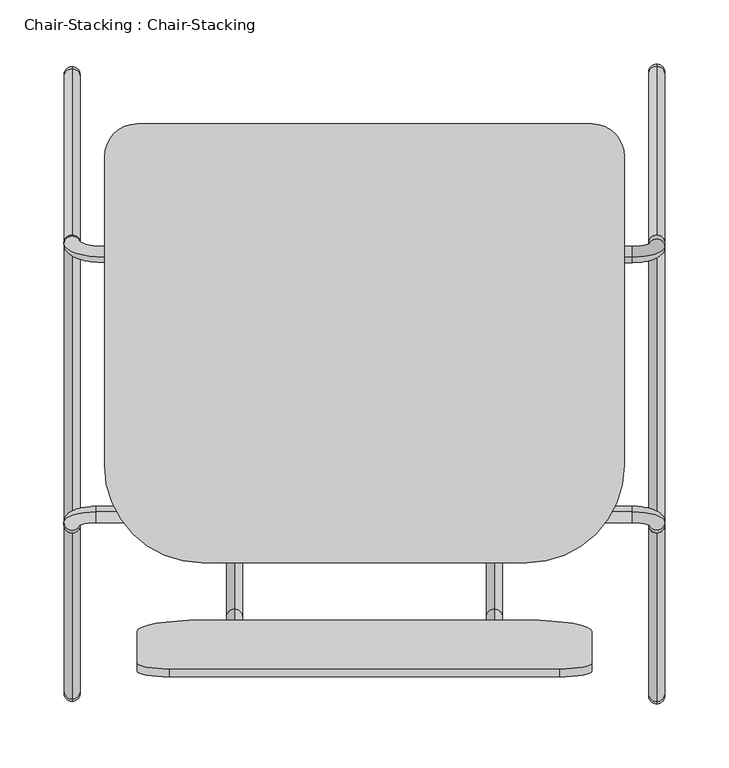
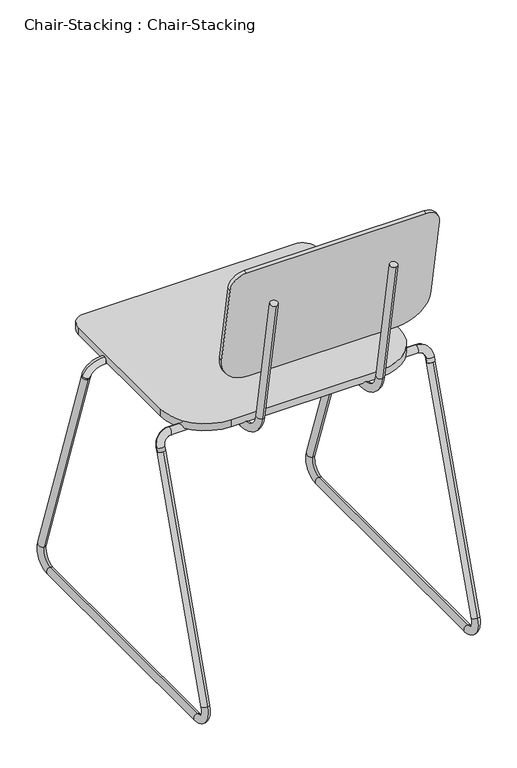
"""IFC4 building model written with IfcOpenShell, lengths in millimetres: furniture geometry, Chair-Stacking : Chair-Stacking."""

from ifc_helpers import new_model, si_unit, point, frame, frame_2d, origin, place, context, project, spatial, polyline, circle_curve, ellipse_curve, trimmed, segment, composite_curve, outline, extrude, source, transform, mapped, element, save
from ifc_brep_helpers import plane_surface, cylinder_surface, revolved_surface, advanced_brep


def chair_stacking_chair_stacking_4df0970f(model_context):
    return source(origin(), model_context, "Body", "SolidModel", [
        advanced_brep(
        [(-280.6491803, 213.2656675, 431.8), (-280.6491803, 213.2656675, 444.5), (-280.6491803, -23.0277124, 431.8), (-280.6491803, -23.0277124, 444.5), (-280.6491803, -66.802417, 481.2313385), (-280.6491803, -79.3094755, 479.0260066), (-280.6491803, -119.2282049, 705.4163709), (-280.6491803, -106.7211464, 707.6217027)],
        [
            (0, 1, circle_curve(frame((-280.6491803, 213.2656675, 438.15), z_axis=(0.0, 1.0, 0.0), x_axis=(0.0, 0.0, 1.0)), 6.35)),
            (1, 0, circle_curve(frame((-280.6491803, 213.2656675, 438.15), z_axis=(0.0, 1.0, 0.0), x_axis=(0.0, 0.0, 1.0)), 6.35)),
            (0, 2),
            (2, 3, circle_curve(frame((-280.6491803, -23.0277124, 438.15), z_axis=(0.0, 1.0, 0.0), x_axis=(0.0, 0.0, 1.0)), 6.35)),
            (3, 1),
            (3, 2, circle_curve(frame((-280.6491803, -23.0277124, 438.15), z_axis=(0.0, 1.0, 0.0), x_axis=(0.0, 0.0, 1.0)), 6.35)),
            (4, 3, circle_curve(frame((-280.6491803, -23.0277124, 488.95), z_axis=(1.0, 0.0, 0.0), x_axis=(0.0, 0.0, -1.0)), 44.45)),
            (2, 5, circle_curve(frame((-280.6491803, -23.0277124, 488.95), z_axis=(-1.0, 0.0, 0.0), x_axis=(0.0, 0.0, -1.0)), 57.15)),
            (5, 4, circle_curve(frame((-280.6491803, -73.0559463, 480.1286726), z_axis=(0.0, 0.17364817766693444, -0.9848077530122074), x_axis=(0.0, 0.9848077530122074, 0.17364817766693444)), 6.35)),
            (4, 5, circle_curve(frame((-280.6491803, -73.0559463, 480.1286726), z_axis=(0.0, 0.17364817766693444, -0.9848077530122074), x_axis=(0.0, 0.9848077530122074, 0.17364817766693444)), 6.35)),
            (6, 7, circle_curve(frame((-280.6491803, -112.9746757, 706.5190368), z_axis=(0.0, -0.1736481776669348, 0.9848077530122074), x_axis=(0.0, 0.9848077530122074, 0.1736481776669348)), 6.35)),
            (7, 6, circle_curve(frame((-280.6491803, -112.9746757, 706.5190368), z_axis=(0.0, -0.1736481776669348, 0.9848077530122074), x_axis=(0.0, 0.9848077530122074, 0.1736481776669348)), 6.35)),
            (5, 6),
            (7, 4),
        ],
        [
            plane_surface(frame((-286.9991803, 213.2656675, 438.15), z_axis=(0.0, 1.0, 0.0), x_axis=(0.0, 0.0, -1.0))),
            cylinder_surface(frame((-280.6491803, 213.2656675, 438.15), z_axis=(0.0, 1.0, 0.0), x_axis=(0.0, 0.0, 1.0)), 6.35),
            revolved_surface(trimmed(ellipse_curve(frame((-280.6491803, -23.0277124, 438.15), z_axis=(0.0, 1.0, 0.0), x_axis=(0.0, 0.0, 1.0)), 6.35, 6.35), [point((-280.6491803, -23.0277124, 431.8))], [point((-280.6491803, -23.0277124, 444.5))], True, "CARTESIAN"), (-280.6491803, -23.0277124, 488.95), (-1.0, 0.0, 0.0)),
            revolved_surface(trimmed(ellipse_curve(frame((-280.6491803, -23.0277124, 438.15), z_axis=(0.0, 1.0, 0.0), x_axis=(0.0, 0.0, 1.0)), 6.35, 6.35), [point((-280.6491803, -23.0277124, 444.5))], [point((-280.6491803, -23.0277124, 431.8))], True, "CARTESIAN"), (-280.6491803, -23.0277124, 488.95), (-1.0, 0.0, 0.0)),
            plane_surface(frame((-280.6491803, -119.2282049, 705.4163709), z_axis=(0.0, -0.17364817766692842, 0.9848077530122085), x_axis=(1.0, 0.0, 0.0))),
            cylinder_surface(frame((-280.6491803, -73.0559463, 480.1286726), z_axis=(0.0, 0.1736481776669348, -0.9848077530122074), x_axis=(0.0, 0.9848077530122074, 0.1736481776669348)), 6.35),
        ],
        [
            (0, [[1, 2]]),
            (1, [[-1, 3, 4, 5]]),
            (1, [[-2, -5, 6, -3]]),
            (2, [[7, -4, 8, 9]]),
            (3, [[-8, -6, -7, 10]]),
            (4, [[11, 12]]),
            (5, [[-9, 13, -12, 14]]),
            (5, [[-10, -14, -11, -13]]),
        ],
    ),
        advanced_brep(
        [(-77.4491803, 213.2656675, 431.8), (-77.4491803, 213.2656675, 444.5), (-77.4491803, -23.0277124, 431.8), (-77.4491803, -23.0277124, 444.5), (-77.4491803, -66.802417, 481.2313385), (-77.4491803, -79.3094755, 479.0260066), (-77.4491803, -118.9339087, 703.7473341), (-77.4491803, -106.4268502, 705.9526659)],
        [
            (0, 1, circle_curve(frame((-77.4491803, 213.2656675, 438.15), z_axis=(0.0, 1.0, 0.0), x_axis=(0.0, 0.0, 1.0)), 6.35)),
            (1, 0, circle_curve(frame((-77.4491803, 213.2656675, 438.15), z_axis=(0.0, 1.0, 0.0), x_axis=(0.0, 0.0, 1.0)), 6.35)),
            (0, 2),
            (2, 3, circle_curve(frame((-77.4491803, -23.0277124, 438.15), z_axis=(0.0, 1.0, 0.0), x_axis=(0.0, 0.0, 1.0)), 6.35)),
            (3, 1),
            (3, 2, circle_curve(frame((-77.4491803, -23.0277124, 438.15), z_axis=(0.0, 1.0, 0.0), x_axis=(0.0, 0.0, 1.0)), 6.35)),
            (4, 3, circle_curve(frame((-77.4491803, -23.0277124, 488.95), z_axis=(1.0, 0.0, 0.0), x_axis=(0.0, 0.0, -1.0)), 44.45)),
            (2, 5, circle_curve(frame((-77.4491803, -23.0277124, 488.95), z_axis=(-1.0, 0.0, 0.0), x_axis=(0.0, 0.0, -1.0)), 57.15)),
            (5, 4, circle_curve(frame((-77.4491803, -73.0559463, 480.1286726), z_axis=(0.0, 0.1736481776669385, -0.9848077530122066), x_axis=(0.0, 0.9848077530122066, 0.1736481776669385)), 6.35)),
            (4, 5, circle_curve(frame((-77.4491803, -73.0559463, 480.1286726), z_axis=(0.0, 0.1736481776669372, -0.9848077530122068), x_axis=(0.0, 0.9848077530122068, 0.1736481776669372)), 6.35)),
            (6, 7, circle_curve(frame((-77.4491803, -112.6803794, 704.85), z_axis=(0.0, -0.17364817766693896, 0.9848077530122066), x_axis=(0.0, 0.9848077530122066, 0.17364817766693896)), 6.35)),
            (7, 6, circle_curve(frame((-77.4491803, -112.6803794, 704.85), z_axis=(0.0, -0.17364817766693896, 0.9848077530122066), x_axis=(0.0, 0.9848077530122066, 0.17364817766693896)), 6.35)),
            (5, 6),
            (7, 4),
        ],
        [
            plane_surface(frame((-83.7991803, 213.2656675, 438.15), z_axis=(0.0, 1.0, 0.0), x_axis=(0.0, 0.0, -1.0))),
            cylinder_surface(frame((-77.4491803, 213.2656675, 438.15), z_axis=(0.0, 1.0, 0.0), x_axis=(0.0, 0.0, 1.0)), 6.35),
            revolved_surface(trimmed(ellipse_curve(frame((-77.4491803, -23.0277124, 438.15), z_axis=(0.0, 1.0, 0.0), x_axis=(0.0, 0.0, 1.0)), 6.35, 6.35), [point((-77.4491803, -23.0277124, 431.8))], [point((-77.4491803, -23.0277124, 444.5))], True, "CARTESIAN"), (-77.4491803, -23.0277124, 488.95), (-1.0, 0.0, 0.0)),
            revolved_surface(trimmed(ellipse_curve(frame((-77.4491803, -23.0277124, 438.15), z_axis=(0.0, 1.0, 0.0), x_axis=(0.0, 0.0, 1.0)), 6.35, 6.35), [point((-77.4491803, -23.0277124, 444.5))], [point((-77.4491803, -23.0277124, 431.8))], True, "CARTESIAN"), (-77.4491803, -23.0277124, 488.95), (-1.0, 0.0, 0.0)),
            plane_surface(frame((-77.4491803, -118.9339087, 703.7473341), z_axis=(0.0, -0.17364817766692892, 0.9848077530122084), x_axis=(1.0, 0.0, 0.0))),
            cylinder_surface(frame((-77.4491803, -73.0559463, 480.1286726), z_axis=(0.0, 0.17364817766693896, -0.9848077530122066), x_axis=(0.0, 0.9848077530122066, 0.17364817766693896)), 6.35),
        ],
        [
            (0, [[1, 2]]),
            (1, [[-1, 3, 4, 5]]),
            (1, [[-2, -5, 6, -3]]),
            (2, [[7, -4, 8, 9]]),
            (3, [[-8, -6, -7, 10]]),
            (4, [[11, 12]]),
            (5, [[-9, 13, -12, 14]]),
            (5, [[-10, -14, -11, -13]]),
        ],
    ),
        extrude(outline(composite_curve([segment(trimmed(circle_curve(frame_2d((-1.2491803, 286.7314636)), 25.4), [point((-1.2491803, 312.1314636))], [point((24.1508197, 286.7314636))], False, "CARTESIAN"), True, "CONTINUOUS"), segment(polyline([(24.1508197, 286.7314636), (24.1508197, 45.4314636)]), True, "CONTINUOUS"), segment(trimmed(circle_curve(frame_2d((-52.0491803, 45.4314636)), 76.2), [point((24.1508197, 45.4314636))], [point((-52.0491803, -30.7685364))], False, "CARTESIAN"), True, "CONTINUOUS"), segment(polyline([(-52.0491803, -30.7685364), (-306.0491803, -30.7685364)]), True, "CONTINUOUS"), segment(trimmed(circle_curve(frame_2d((-306.0491803, 45.4314636)), 76.2), [point((-306.0491803, -30.7685364))], [point((-382.2491803, 45.4314636))], False, "CARTESIAN"), True, "CONTINUOUS"), segment(polyline([(-382.2491803, 45.4314636), (-382.2491803, 286.7314636)]), True, "CONTINUOUS"), segment(trimmed(circle_curve(frame_2d((-356.8491803, 286.7314636)), 25.4), [point((-382.2491803, 286.7314636))], [point((-356.8491803, 312.1314636))], False, "CARTESIAN"), True, "CONTINUOUS"), segment(polyline([(-356.8491803, 312.1314636), (-1.2491803, 312.1314636)]), True, "CONTINUOUS")], self_intersect=False)), frame((0.0, 0.0, 444.5), z_axis=(0.0, 0.0, 1.0), x_axis=(1.0, 0.0, 0.0)), (0.0, 0.0, 1.0), 12.7),
        extrude(outline(composite_curve([segment(polyline([(-304.8, 0.0), (0.0, 0.0)]), True, "CONTINUOUS"), segment(trimmed(circle_curve(frame_2d((0.0, -25.4)), 25.4), [point((0.0, 0.0))], [point((25.4, -25.4))], False, "CARTESIAN"), True, "CONTINUOUS"), segment(polyline([(25.4, -25.4), (25.4, -168.3013626)]), True, "CONTINUOUS"), segment(trimmed(circle_curve(frame_2d((-25.4, -168.3013626)), 50.8), [point((25.4, -168.3013626))], [point((-25.4, -219.1013626))], False, "CARTESIAN"), True, "CONTINUOUS"), segment(polyline([(-25.4, -219.1013626), (-279.4, -219.1013626)]), True, "CONTINUOUS"), segment(trimmed(circle_curve(frame_2d((-279.4, -168.3013626)), 50.8), [point((-279.4, -219.1013626))], [point((-330.2, -168.3013626))], False, "CARTESIAN"), True, "CONTINUOUS"), segment(polyline([(-330.2, -168.3013626), (-330.2, -25.4)]), True, "CONTINUOUS"), segment(trimmed(circle_curve(frame_2d((-304.8, -25.4)), 25.4), [point((-330.2, -25.4))], [point((-304.8, 0.0))], False, "CARTESIAN"), True, "CONTINUOUS")], self_intersect=False)), frame((-331.4491803, -119.9531376, 782.6640535), z_axis=(0.0, 0.9848077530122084, 0.17364817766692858), x_axis=(-1.0, 0.0, 0.0)), (0.0, 0.0, 1.0), 6.35),
        advanced_brep(
        [(55.9008197, 219.2327758, 419.1211728), (43.2008197, 219.2327758, 419.1211728), (55.9008197, 216.3017292, 427.6700586), (43.2008197, 216.3017292, 427.6700586), (30.5008197, 212.1828103, 439.6835721), (30.5008197, 208.0638914, 451.6970857), (-382.2491803, 208.0638914, 451.6970857), (-382.2491803, 212.1828103, 439.6835721), (-401.2991803, 218.3611887, 421.6633019), (-413.9991803, 218.3611887, 421.6633019), (-413.9991803, 219.2424531, 419.0929473), (-401.2991803, 219.2424531, 419.0929473)],
        [
            (0, 1, circle_curve(frame((49.5508197, 219.2327758, 419.1211728), z_axis=(0.0, 0.32432432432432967, -0.9459459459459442), x_axis=(-1.0, 0.0, 0.0)), 6.35)),
            (1, 0, circle_curve(frame((49.5508197, 219.2327758, 419.1211728), z_axis=(0.0, 0.32432432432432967, -0.9459459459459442), x_axis=(-1.0, 0.0, 0.0)), 6.35)),
            (0, 2),
            (2, 3, circle_curve(frame((49.5508197, 216.3017292, 427.6700586), z_axis=(0.0, 0.32432432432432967, -0.9459459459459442), x_axis=(-1.0, 0.0, 0.0)), 6.35)),
            (3, 1),
            (3, 2, circle_curve(frame((49.5508197, 216.3017292, 427.6700586), z_axis=(0.0, 0.32432432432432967, -0.9459459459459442), x_axis=(-1.0, 0.0, 0.0)), 6.35)),
            (4, 3, circle_curve(frame((30.5008197, 216.3017292, 427.6700586), z_axis=(0.0, 0.9459459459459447, 0.3243243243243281), x_axis=(1.0, 0.0, 0.0)), 12.7)),
            (2, 5, circle_curve(frame((30.5008197, 216.3017292, 427.6700586), z_axis=(0.0, -0.9459459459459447, -0.3243243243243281), x_axis=(1.0, 0.0, 0.0)), 25.4)),
            (5, 4, circle_curve(frame((30.5008197, 210.1233509, 445.6903289), z_axis=(1.0, 0.0, 0.0), x_axis=(0.0, 0.32432432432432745, -0.9459459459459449)), 6.35)),
            (4, 5, circle_curve(frame((30.5008197, 210.1233509, 445.6903289), z_axis=(1.0, 0.0, 0.0), x_axis=(0.0, 0.32432432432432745, -0.9459459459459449)), 6.35)),
            (5, 6),
            (6, 7, circle_curve(frame((-382.2491803, 210.1233509, 445.6903289), z_axis=(1.0, 0.0, 0.0), x_axis=(0.0, 0.32432432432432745, -0.9459459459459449)), 6.35)),
            (7, 4),
            (7, 6, circle_curve(frame((-382.2491803, 210.1233509, 445.6903289), z_axis=(1.0, 0.0, 0.0), x_axis=(0.0, 0.32432432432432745, -0.9459459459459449)), 6.35)),
            (8, 7, circle_curve(frame((-382.2491803, 218.3611887, 421.6633019), z_axis=(0.0, 0.9459459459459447, 0.3243243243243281), x_axis=(0.0, -0.3243243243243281, 0.9459459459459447)), 19.05)),
            (6, 9, circle_curve(frame((-382.2491803, 218.3611887, 421.6633019), z_axis=(0.0, -0.9459459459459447, -0.3243243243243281), x_axis=(0.0, -0.3243243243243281, 0.9459459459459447)), 31.75)),
            (9, 8, circle_curve(frame((-407.6491803, 218.3611887, 421.6633019), z_axis=(0.0, -0.324324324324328, 0.9459459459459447), x_axis=(1.0000000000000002, 0.0, 0.0)), 6.35)),
            (8, 9, circle_curve(frame((-407.6491803, 218.3611887, 421.6633019), z_axis=(0.0, -0.324324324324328, 0.9459459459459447), x_axis=(1.0000000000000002, 0.0, 0.0)), 6.35)),
            (10, 11, circle_curve(frame((-407.6491803, 219.2424531, 419.0929473), z_axis=(0.0, 0.32432432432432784, -0.9459459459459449), x_axis=(1.0, 0.0, 0.0)), 6.35)),
            (11, 10, circle_curve(frame((-407.6491803, 219.2424531, 419.0929473), z_axis=(0.0, 0.32432432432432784, -0.9459459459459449), x_axis=(1.0, 0.0, 0.0)), 6.35)),
            (9, 10),
            (11, 8),
        ],
        [
            plane_surface(frame((49.5508197, 213.226019, 417.0617133), z_axis=(0.0, 0.32432432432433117, -0.9459459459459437), x_axis=(1.0, 0.0, 0.0))),
            cylinder_surface(frame((49.5508197, 219.2327758, 419.1211728), z_axis=(0.0, 0.32432432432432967, -0.9459459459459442), x_axis=(-1.0, 0.0, 0.0)), 6.35),
            revolved_surface(trimmed(ellipse_curve(frame((49.5508197, 216.3017292, 427.6700586), z_axis=(0.0, 0.32432432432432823, -0.9459459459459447), x_axis=(-1.0, 0.0, 0.0)), 6.35, 6.35), [point((55.9008197, 216.3017292, 427.6700586))], [point((43.2008197, 216.3017292, 427.6700586))], True, "CARTESIAN"), (30.5008197, 216.3017292, 427.6700586), (0.0, -0.9459459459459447, -0.3243243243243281)),
            revolved_surface(trimmed(ellipse_curve(frame((49.5508197, 216.3017292, 427.6700586), z_axis=(0.0, 0.32432432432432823, -0.9459459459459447), x_axis=(-1.0, 0.0, 0.0)), 6.35, 6.35), [point((43.2008197, 216.3017292, 427.6700586))], [point((55.9008197, 216.3017292, 427.6700586))], True, "CARTESIAN"), (30.5008197, 216.3017292, 427.6700586), (0.0, -0.9459459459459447, -0.3243243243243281)),
            cylinder_surface(frame((30.5008197, 210.1233509, 445.6903289), z_axis=(1.0, 0.0, 0.0), x_axis=(0.0, 0.32432432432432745, -0.9459459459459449)), 6.35),
            revolved_surface(trimmed(ellipse_curve(frame((-382.2491803, 210.1233509, 445.6903289), z_axis=(1.0000000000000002, 0.0, 0.0), x_axis=(0.0, 0.3243243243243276, -0.9459459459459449)), 6.35, 6.35), [point((-382.2491803, 208.0638914, 451.6970857))], [point((-382.2491803, 212.1828103, 439.6835721))], True, "CARTESIAN"), (-382.2491803, 218.3611887, 421.6633019), (0.0, -0.9459459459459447, -0.3243243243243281)),
            revolved_surface(trimmed(ellipse_curve(frame((-382.2491803, 210.1233509, 445.6903289), z_axis=(1.0000000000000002, 0.0, 0.0), x_axis=(0.0, 0.3243243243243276, -0.9459459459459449)), 6.35, 6.35), [point((-382.2491803, 212.1828103, 439.6835721))], [point((-382.2491803, 208.0638914, 451.6970857))], True, "CARTESIAN"), (-382.2491803, 218.3611887, 421.6633019), (0.0, -0.9459459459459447, -0.3243243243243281)),
            plane_surface(frame((-407.6491803, 225.2492099, 421.1524068), z_axis=(0.0, 0.3243243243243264, -0.9459459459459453), x_axis=(1.0, 0.0, 0.0))),
            cylinder_surface(frame((-407.6491803, 218.3611887, 421.6633019), z_axis=(0.0, -0.3243243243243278, 0.9459459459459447), x_axis=(1.0, 0.0, 0.0)), 6.35),
        ],
        [
            (0, [[1, 2]]),
            (1, [[-1, 3, 4, 5]]),
            (1, [[-2, -5, 6, -3]]),
            (2, [[7, -4, 8, 9]]),
            (3, [[-8, -6, -7, 10]]),
            (4, [[-9, 11, 12, 13]]),
            (4, [[-10, -13, 14, -11]]),
            (5, [[15, -12, 16, 17]]),
            (6, [[-16, -14, -15, 18]]),
            (7, [[19, 20]]),
            (8, [[-17, 21, -20, 22]]),
            (8, [[-18, -22, -19, -21]]),
        ],
    ),
        advanced_brep(
        [(55.9008197, -1.3812406, 419.0879461), (43.2008197, -1.3812406, 419.0879461), (55.9008197, 0.7944914, 425.4338312), (43.2008197, 0.7944914, 425.4338312), (30.5008197, 4.9134104, 437.4473447), (30.5008197, 9.0323293, 449.4608582), (-388.5991803, 9.0323293, 449.4608582), (-388.5991803, 4.9134104, 437.4473447), (-401.2991803, 0.7944914, 425.4338312), (-413.9991803, 0.7944914, 425.4338312), (-413.9991803, -1.3997864, 419.0338542), (-401.2991803, -1.3997864, 419.0338542)],
        [
            (0, 1, circle_curve(frame((49.5508197, -1.3812406, 419.0879461), z_axis=(0.0, -0.32432432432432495, -0.9459459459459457), x_axis=(-1.0, 0.0, 0.0)), 6.35)),
            (1, 0, circle_curve(frame((49.5508197, -1.3812406, 419.0879461), z_axis=(0.0, -0.32432432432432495, -0.9459459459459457), x_axis=(-1.0, 0.0, 0.0)), 6.35)),
            (0, 2),
            (2, 3, circle_curve(frame((49.5508197, 0.7944914, 425.4338312), z_axis=(0.0, -0.32432432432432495, -0.9459459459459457), x_axis=(-1.0, 0.0, 0.0)), 6.35)),
            (3, 1),
            (3, 2, circle_curve(frame((49.5508197, 0.7944914, 425.4338312), z_axis=(0.0, -0.32432432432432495, -0.9459459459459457), x_axis=(-1.0, 0.0, 0.0)), 6.35)),
            (4, 3, circle_curve(frame((30.5008197, 0.7944914, 425.4338312), z_axis=(0.0, 0.9459459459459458, -0.3243243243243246), x_axis=(1.0, 0.0, 0.0)), 12.7)),
            (2, 5, circle_curve(frame((30.5008197, 0.7944914, 425.4338312), z_axis=(0.0, -0.9459459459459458, 0.3243243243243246), x_axis=(1.0, 0.0, 0.0)), 25.4)),
            (5, 4, circle_curve(frame((30.5008197, 6.9728698, 443.4541014), z_axis=(1.0, 0.0, 0.0), x_axis=(0.0, -0.3243243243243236, -0.9459459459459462)), 6.35)),
            (4, 5, circle_curve(frame((30.5008197, 6.9728698, 443.4541014), z_axis=(1.0, 0.0, 0.0), x_axis=(0.0, -0.3243243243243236, -0.9459459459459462)), 6.35)),
            (5, 6),
            (6, 7, circle_curve(frame((-388.5991803, 6.9728698, 443.4541014), z_axis=(1.0, 0.0, 0.0), x_axis=(0.0, -0.3243243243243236, -0.9459459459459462)), 6.35)),
            (7, 4),
            (7, 6, circle_curve(frame((-388.5991803, 6.9728698, 443.4541014), z_axis=(1.0, 0.0, 0.0), x_axis=(0.0, -0.3243243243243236, -0.9459459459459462)), 6.35)),
            (8, 7, circle_curve(frame((-388.5991803, 0.7944914, 425.4338312), z_axis=(0.0, 0.9459459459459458, -0.3243243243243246), x_axis=(0.0, 0.3243243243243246, 0.9459459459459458)), 12.7)),
            (6, 9, circle_curve(frame((-388.5991803, 0.7944914, 425.4338312), z_axis=(0.0, -0.9459459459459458, 0.3243243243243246), x_axis=(0.0, 0.3243243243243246, 0.9459459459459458)), 25.4)),
            (9, 8, circle_curve(frame((-407.6491803, 0.7944914, 425.4338312), z_axis=(0.0, 0.3243243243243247, 0.9459459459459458), x_axis=(1.0, 0.0, 0.0)), 6.35)),
            (8, 9, circle_curve(frame((-407.6491803, 0.7944914, 425.4338312), z_axis=(0.0, 0.3243243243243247, 0.9459459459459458), x_axis=(1.0, 0.0, 0.0)), 6.35)),
            (10, 11, circle_curve(frame((-407.6491803, -1.3997864, 419.0338542), z_axis=(0.0, -0.3243243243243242, -0.945945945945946), x_axis=(1.0, 0.0, 0.0)), 6.35)),
            (11, 10, circle_curve(frame((-407.6491803, -1.3997864, 419.0338542), z_axis=(0.0, -0.3243243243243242, -0.945945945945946), x_axis=(1.0, 0.0, 0.0)), 6.35)),
            (9, 10),
            (11, 8),
        ],
        [
            plane_surface(frame((49.5508197, -7.3879973, 421.1474055), z_axis=(0.0, -0.32432432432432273, -0.9459459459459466), x_axis=(1.0, 0.0, 0.0))),
            cylinder_surface(frame((49.5508197, -1.3812406, 419.0879461), z_axis=(0.0, -0.32432432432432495, -0.9459459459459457), x_axis=(-1.0, 0.0, 0.0)), 6.35),
            revolved_surface(trimmed(ellipse_curve(frame((49.5508197, 0.7944914, 425.4338312), z_axis=(0.0, -0.32432432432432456, -0.9459459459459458), x_axis=(-1.0, 0.0, 0.0)), 6.35, 6.35), [point((55.9008197, 0.7944914, 425.4338312))], [point((43.2008197, 0.7944914, 425.4338312))], True, "CARTESIAN"), (30.5008197, 0.7944914, 425.4338312), (0.0, -0.9459459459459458, 0.3243243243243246)),
            revolved_surface(trimmed(ellipse_curve(frame((49.5508197, 0.7944914, 425.4338312), z_axis=(0.0, -0.32432432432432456, -0.9459459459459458), x_axis=(-1.0, 0.0, 0.0)), 6.35, 6.35), [point((43.2008197, 0.7944914, 425.4338312))], [point((55.9008197, 0.7944914, 425.4338312))], True, "CARTESIAN"), (30.5008197, 0.7944914, 425.4338312), (0.0, -0.9459459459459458, 0.3243243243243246)),
            cylinder_surface(frame((30.5008197, 6.9728698, 443.4541014), z_axis=(1.0, 0.0, 0.0), x_axis=(0.0, -0.3243243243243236, -0.9459459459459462)), 6.35),
            revolved_surface(trimmed(ellipse_curve(frame((-388.5991803, 6.9728698, 443.4541014), z_axis=(1.0, 0.0, 0.0), x_axis=(0.0, -0.3243243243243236, -0.9459459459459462)), 6.35, 6.35), [point((-388.5991803, 9.0323293, 449.4608582))], [point((-388.5991803, 4.9134104, 437.4473447))], True, "CARTESIAN"), (-388.5991803, 0.7944914, 425.4338312), (0.0, -0.9459459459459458, 0.3243243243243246)),
            revolved_surface(trimmed(ellipse_curve(frame((-388.5991803, 6.9728698, 443.4541014), z_axis=(1.0, 0.0, 0.0), x_axis=(0.0, -0.3243243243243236, -0.9459459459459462)), 6.35, 6.35), [point((-388.5991803, 4.9134104, 437.4473447))], [point((-388.5991803, 9.0323293, 449.4608582))], True, "CARTESIAN"), (-388.5991803, 0.7944914, 425.4338312), (0.0, -0.9459459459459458, 0.3243243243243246)),
            plane_surface(frame((-407.6491803, 4.6069704, 416.9743947), z_axis=(0.0, -0.3243243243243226, -0.9459459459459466), x_axis=(1.0, 0.0, 0.0))),
            cylinder_surface(frame((-407.6491803, 0.7944914, 425.4338312), z_axis=(0.0, 0.3243243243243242, 0.945945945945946), x_axis=(1.0, 0.0, 0.0)), 6.35),
        ],
        [
            (0, [[1, 2]]),
            (1, [[-1, 3, 4, 5]]),
            (1, [[-2, -5, 6, -3]]),
            (2, [[7, -4, 8, 9]]),
            (3, [[-8, -6, -7, 10]]),
            (4, [[-9, 11, 12, 13]]),
            (4, [[-10, -13, 14, -11]]),
            (5, [[15, -12, 16, 17]]),
            (6, [[-16, -14, -15, 18]]),
            (7, [[19, 20]]),
            (8, [[-17, 21, -20, 22]]),
            (8, [[-18, -22, -19, -21]]),
        ],
    ),
        advanced_brep(
        [(-407.6491803, 225.2492099, 421.1524068), (-407.6491803, 213.2356963, 417.0334879), (-407.6491803, 355.2281045, 42.0472973), (-407.6491803, 343.214591, 37.9283784), (-407.6491803, 325.1943208, 12.7), (-407.6491803, 325.1943208, 0.0), (-407.6491803, -107.3313935, 0.0), (-407.6491803, -107.3313935, 12.7), (-407.6491803, -125.3516638, 37.9283784), (-407.6491803, -137.3651773, 42.0472973), (-407.6491803, -7.4065431, 421.0933136), (-407.6491803, 4.6069704, 416.9743947)],
        [
            (0, 1, circle_curve(frame((-407.6491803, 219.2424531, 419.0929473), z_axis=(0.0, -0.3243243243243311, 0.9459459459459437), x_axis=(0.0, -0.9459459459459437, -0.3243243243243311)), 6.35)),
            (1, 0, circle_curve(frame((-407.6491803, 219.2424531, 419.0929473), z_axis=(0.0, -0.3243243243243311, 0.9459459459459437), x_axis=(0.0, -0.9459459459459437, -0.3243243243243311)), 6.35)),
            (0, 2),
            (2, 3, circle_curve(frame((-407.6491803, 349.2213478, 39.9878378), z_axis=(0.0, -0.3243243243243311, 0.9459459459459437), x_axis=(0.0, -0.9459459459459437, -0.3243243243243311)), 6.35)),
            (3, 1),
            (3, 2, circle_curve(frame((-407.6491803, 349.2213478, 39.9878378), z_axis=(0.0, -0.3243243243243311, 0.9459459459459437), x_axis=(0.0, -0.9459459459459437, -0.3243243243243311)), 6.35)),
            (4, 3, circle_curve(frame((-407.6491803, 325.1943208, 31.75), z_axis=(1.0, 0.0, 0.0), x_axis=(0.0, 0.9459459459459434, 0.3243243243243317)), 19.05)),
            (2, 5, circle_curve(frame((-407.6491803, 325.1943208, 31.75), z_axis=(-1.0, 0.0, 0.0), x_axis=(0.0, 0.9459459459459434, 0.3243243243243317)), 31.75)),
            (5, 4, circle_curve(frame((-407.6491803, 325.1943208, 6.35), z_axis=(0.0, 1.0, 0.0), x_axis=(0.0, 0.0, 1.0)), 6.35)),
            (4, 5, circle_curve(frame((-407.6491803, 325.1943208, 6.35), z_axis=(0.0, 0.9999999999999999, 0.0), x_axis=(0.0, 0.0, 0.9999999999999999)), 6.35)),
            (5, 6),
            (6, 7, circle_curve(frame((-407.6491803, -107.3313935, 6.35), z_axis=(0.0, 1.0, 0.0), x_axis=(0.0, 0.0, 1.0)), 6.35)),
            (7, 4),
            (7, 6, circle_curve(frame((-407.6491803, -107.3313935, 6.35), z_axis=(0.0, 1.0, 0.0), x_axis=(0.0, 0.0, 1.0)), 6.35)),
            (8, 7, circle_curve(frame((-407.6491803, -107.3313935, 31.75), z_axis=(1.0, 0.0, 0.0), x_axis=(0.0, 0.0, -1.0)), 19.05)),
            (6, 9, circle_curve(frame((-407.6491803, -107.3313935, 31.75), z_axis=(-1.0, 0.0, 0.0), x_axis=(0.0, 0.0, -1.0)), 31.75)),
            (9, 8, circle_curve(frame((-407.6491803, -131.3584206, 39.9878378), z_axis=(0.0, -0.3243243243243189, -0.9459459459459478), x_axis=(0.0, 0.9459459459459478, -0.3243243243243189)), 6.35)),
            (8, 9, circle_curve(frame((-407.6491803, -131.3584206, 39.9878378), z_axis=(0.0, -0.3243243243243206, -0.9459459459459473), x_axis=(0.0, 0.9459459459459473, -0.3243243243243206)), 6.35)),
            (10, 11, circle_curve(frame((-407.6491803, -1.3997864, 419.0338542), z_axis=(0.0, 0.3243243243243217, 0.9459459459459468), x_axis=(0.0, 0.9459459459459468, -0.3243243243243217)), 6.35)),
            (11, 10, circle_curve(frame((-407.6491803, -1.3997864, 419.0338542), z_axis=(0.0, 0.3243243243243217, 0.9459459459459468), x_axis=(0.0, 0.9459459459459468, -0.3243243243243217)), 6.35)),
            (9, 10),
            (11, 8),
        ],
        [
            plane_surface(frame((-407.6491803, 225.2492099, 421.1524068), z_axis=(0.0, -0.32432432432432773, 0.9459459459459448), x_axis=(1.0, 0.0, 0.0))),
            cylinder_surface(frame((-407.6491803, 219.2424531, 419.0929473), z_axis=(0.0, -0.3243243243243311, 0.9459459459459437), x_axis=(0.0, -0.9459459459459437, -0.3243243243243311)), 6.35),
            revolved_surface(trimmed(ellipse_curve(frame((-407.6491803, 349.2213478, 39.9878378), z_axis=(0.0, -0.3243243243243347, 0.9459459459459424), x_axis=(0.0, -0.9459459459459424, -0.3243243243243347)), 6.35, 6.35), [point((-407.6491803, 355.2281045, 42.0472973))], [point((-407.6491803, 343.214591, 37.9283784))], True, "CARTESIAN"), (-407.6491803, 325.1943208, 31.75), (-1.0, 0.0, 0.0)),
            revolved_surface(trimmed(ellipse_curve(frame((-407.6491803, 349.2213478, 39.9878378), z_axis=(0.0, -0.3243243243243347, 0.9459459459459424), x_axis=(0.0, -0.9459459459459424, -0.3243243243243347)), 6.35, 6.35), [point((-407.6491803, 343.214591, 37.9283784))], [point((-407.6491803, 355.2281045, 42.0472973))], True, "CARTESIAN"), (-407.6491803, 325.1943208, 31.75), (-1.0, 0.0, 0.0)),
            cylinder_surface(frame((-407.6491803, 325.1943208, 6.35), z_axis=(0.0, 1.0, 0.0), x_axis=(0.0, 0.0, 1.0)), 6.35),
            revolved_surface(trimmed(ellipse_curve(frame((-407.6491803, -107.3313935, 6.35), z_axis=(0.0, 1.0, 0.0), x_axis=(0.0, 0.0, 1.0)), 6.35, 6.35), [point((-407.6491803, -107.3313935, 0.0))], [point((-407.6491803, -107.3313935, 12.7))], True, "CARTESIAN"), (-407.6491803, -107.3313935, 31.75), (-1.0, 0.0, 0.0)),
            revolved_surface(trimmed(ellipse_curve(frame((-407.6491803, -107.3313935, 6.35), z_axis=(0.0, 1.0, 0.0), x_axis=(0.0, 0.0, 1.0)), 6.35, 6.35), [point((-407.6491803, -107.3313935, 12.7))], [point((-407.6491803, -107.3313935, 0.0))], True, "CARTESIAN"), (-407.6491803, -107.3313935, 31.75), (-1.0, 0.0, 0.0)),
            plane_surface(frame((-407.6491803, -7.4065431, 421.0933136), z_axis=(0.0, 0.324324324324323, 0.9459459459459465), x_axis=(1.0, 0.0, 0.0))),
            cylinder_surface(frame((-407.6491803, -131.3584206, 39.9878378), z_axis=(0.0, -0.3243243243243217, -0.9459459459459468), x_axis=(0.0, 0.9459459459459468, -0.3243243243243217)), 6.35),
        ],
        [
            (0, [[1, 2]]),
            (1, [[-1, 3, 4, 5]]),
            (1, [[-2, -5, 6, -3]]),
            (2, [[7, -4, 8, 9]]),
            (3, [[-8, -6, -7, 10]]),
            (4, [[-9, 11, 12, 13]]),
            (4, [[-10, -13, 14, -11]]),
            (5, [[15, -12, 16, 17]]),
            (6, [[-16, -14, -15, 18]]),
            (7, [[19, 20]]),
            (8, [[-17, 21, -20, 22]]),
            (8, [[-18, -22, -19, -21]]),
        ],
    ),
        advanced_brep(
        [(49.5508197, 225.2597598, 421.1875673), (49.5508197, 213.2656675, 417.0124327), (49.5508197, 357.1892841, 42.1878365), (49.5508197, 345.1951918, 38.0127019), (49.5508197, 327.2040533, 12.7), (49.5508197, 327.2040533, 0.0), (49.5508197, -109.3411268, 0.0), (49.5508197, -109.3411268, 12.7), (49.5508197, -127.3337908, 38.0083179), (49.5508197, -139.3289001, 42.1805298), (49.5508197, -7.5008737, 421.186106), (49.5508197, 4.4942357, 417.013894)],
        [
            (0, 1, circle_curve(frame((49.5508197, 219.2627136, 419.1), z_axis=(0.0, -0.3287507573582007, 0.9444167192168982), x_axis=(0.0, -0.9444167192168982, -0.3287507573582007)), 6.35)),
            (1, 0, circle_curve(frame((49.5508197, 219.2627136, 419.1), z_axis=(0.0, -0.3287507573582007, 0.9444167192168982), x_axis=(0.0, -0.9444167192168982, -0.3287507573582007)), 6.35)),
            (0, 2),
            (2, 3, circle_curve(frame((49.5508197, 351.1922379, 40.1002692), z_axis=(0.0, -0.3287507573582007, 0.9444167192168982), x_axis=(0.0, -0.9444167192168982, -0.3287507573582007)), 6.35)),
            (3, 1),
            (3, 2, circle_curve(frame((49.5508197, 351.1922379, 40.1002692), z_axis=(0.0, -0.3287507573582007, 0.9444167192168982), x_axis=(0.0, -0.9444167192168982, -0.3287507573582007)), 6.35)),
            (4, 3, circle_curve(frame((49.5508197, 327.2040533, 31.75), z_axis=(1.0, 0.0, 0.0), x_axis=(0.0, 0.944416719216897, 0.3287507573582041)), 19.05)),
            (2, 5, circle_curve(frame((49.5508197, 327.2040533, 31.75), z_axis=(-1.0, 0.0, 0.0), x_axis=(0.0, 0.944416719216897, 0.3287507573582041)), 31.75)),
            (5, 4, circle_curve(frame((49.5508197, 327.2040533, 6.35), z_axis=(0.0, 1.0, 0.0), x_axis=(0.0, 0.0, 1.0)), 6.35)),
            (4, 5, circle_curve(frame((49.5508197, 327.2040533, 6.35), z_axis=(0.0, 0.9999999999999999, 0.0), x_axis=(0.0, 0.0, 0.9999999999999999)), 6.35)),
            (5, 6),
            (6, 7, circle_curve(frame((49.5508197, -109.3411268, 6.35), z_axis=(0.0, 1.0, 0.0), x_axis=(0.0, 0.0, 1.0)), 6.35)),
            (7, 4),
            (7, 6, circle_curve(frame((49.5508197, -109.3411268, 6.35), z_axis=(0.0, 1.0, 0.0), x_axis=(0.0, 0.0, 1.0)), 6.35)),
            (8, 7, circle_curve(frame((49.5508197, -109.3411268, 31.75), z_axis=(1.0, 0.0, 0.0), x_axis=(0.0, 0.0, -1.0)), 19.05)),
            (6, 9, circle_curve(frame((49.5508197, -109.3411268, 31.75), z_axis=(-1.0, 0.0, 0.0), x_axis=(0.0, 0.0, -1.0)), 31.75)),
            (9, 8, circle_curve(frame((49.5508197, -133.3313455, 40.0944239), z_axis=(0.0, -0.3285206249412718, -0.9444967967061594), x_axis=(0.0, 0.9444967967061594, -0.3285206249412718)), 6.35)),
            (8, 9, circle_curve(frame((49.5508197, -133.3313455, 40.0944239), z_axis=(0.0, -0.3285206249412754, -0.9444967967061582), x_axis=(0.0, 0.9444967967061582, -0.3285206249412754)), 6.35)),
            (10, 11, circle_curve(frame((49.5508197, -1.503319, 419.1), z_axis=(0.0, 0.3285206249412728, 0.9444967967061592), x_axis=(0.0, 0.9444967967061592, -0.3285206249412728)), 6.35)),
            (11, 10, circle_curve(frame((49.5508197, -1.503319, 419.1), z_axis=(0.0, 0.3285206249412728, 0.9444967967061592), x_axis=(0.0, 0.9444967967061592, -0.3285206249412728)), 6.35)),
            (9, 10),
            (11, 8),
        ],
        [
            plane_surface(frame((49.5508197, 225.2597598, 421.1875673), z_axis=(0.0, -0.3287507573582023, 0.9444167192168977), x_axis=(1.0, 0.0, 0.0))),
            cylinder_surface(frame((49.5508197, 219.2627136, 419.1), z_axis=(0.0, -0.3287507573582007, 0.9444167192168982), x_axis=(0.0, -0.9444167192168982, -0.3287507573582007)), 6.35),
            revolved_surface(trimmed(ellipse_curve(frame((49.5508197, 351.1922379, 40.1002692), z_axis=(0.0, -0.32875075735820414, 0.944416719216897), x_axis=(0.0, -0.944416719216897, -0.32875075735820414)), 6.35, 6.35), [point((49.5508197, 357.1892841, 42.1878365))], [point((49.5508197, 345.1951918, 38.0127019))], True, "CARTESIAN"), (49.5508197, 327.2040533, 31.75), (-1.0, 0.0, 0.0)),
            revolved_surface(trimmed(ellipse_curve(frame((49.5508197, 351.1922379, 40.1002692), z_axis=(0.0, -0.32875075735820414, 0.944416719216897), x_axis=(0.0, -0.944416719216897, -0.32875075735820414)), 6.35, 6.35), [point((49.5508197, 345.1951918, 38.0127019))], [point((49.5508197, 357.1892841, 42.1878365))], True, "CARTESIAN"), (49.5508197, 327.2040533, 31.75), (-1.0, 0.0, 0.0)),
            cylinder_surface(frame((49.5508197, 327.2040533, 6.35), z_axis=(0.0, 1.0, 0.0), x_axis=(0.0, 0.0, 1.0)), 6.35),
            revolved_surface(trimmed(ellipse_curve(frame((49.5508197, -109.3411268, 6.35), z_axis=(0.0, 1.0, 0.0), x_axis=(0.0, 0.0, 1.0)), 6.35, 6.35), [point((49.5508197, -109.3411268, 0.0))], [point((49.5508197, -109.3411268, 12.7))], True, "CARTESIAN"), (49.5508197, -109.3411268, 31.75), (-1.0, 0.0, 0.0)),
            revolved_surface(trimmed(ellipse_curve(frame((49.5508197, -109.3411268, 6.35), z_axis=(0.0, 1.0, 0.0), x_axis=(0.0, 0.0, 1.0)), 6.35, 6.35), [point((49.5508197, -109.3411268, 12.7))], [point((49.5508197, -109.3411268, 0.0))], True, "CARTESIAN"), (49.5508197, -109.3411268, 31.75), (-1.0, 0.0, 0.0)),
            plane_surface(frame((49.5508197, -7.5008737, 421.186106), z_axis=(0.0, 0.3285206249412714, 0.9444967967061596), x_axis=(1.0, 0.0, 0.0))),
            cylinder_surface(frame((49.5508197, -133.3313455, 40.0944239), z_axis=(0.0, -0.3285206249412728, -0.9444967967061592), x_axis=(0.0, 0.9444967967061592, -0.3285206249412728)), 6.35),
        ],
        [
            (0, [[1, 2]]),
            (1, [[-1, 3, 4, 5]]),
            (1, [[-2, -5, 6, -3]]),
            (2, [[7, -4, 8, 9]]),
            (3, [[-8, -6, -7, 10]]),
            (4, [[-9, 11, 12, 13]]),
            (4, [[-10, -13, 14, -11]]),
            (5, [[15, -12, 16, 17]]),
            (6, [[-16, -14, -15, 18]]),
            (7, [[19, 20]]),
            (8, [[-17, 21, -20, 22]]),
            (8, [[-18, -22, -19, -21]]),
        ],
    ),
    ])


if __name__ == "__main__":
    model = new_model("IFC4")
    model_context = context("Model", 3, world=origin())
    ifc_project = project(units=[si_unit("LENGTHUNIT", "METRE", prefix="MILLI")], contexts=[model_context])
    site = spatial("IfcSite", under=ifc_project)
    building = spatial("IfcBuilding", under=site)
    placement = place(None, origin())
    chair_stacking_chair_stacking_shape = chair_stacking_chair_stacking_4df0970f(model_context)
    element("IfcFurniture", 1, ObjectType="Chair-Stacking : Chair-Stacking", at=placement, inside=building, context=model_context, shape_type="MappedRepresentation", body=[
        mapped(chair_stacking_chair_stacking_shape, transform((0.0, 0.0, 0.0), x_axis=(1.0, 0.0, 0.0), y_axis=(0.0, 1.0, 0.0), z_axis=(0.0, 0.0, 1.0))),
    ])
    save(model, "model.ifc")
